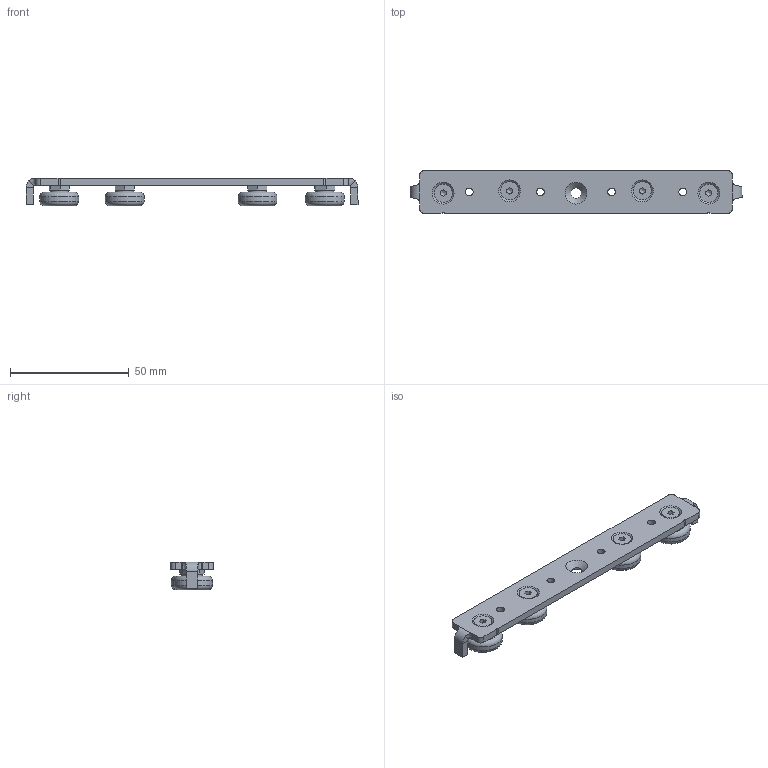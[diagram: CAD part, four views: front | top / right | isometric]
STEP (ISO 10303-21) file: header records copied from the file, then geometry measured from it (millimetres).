
FILE_DESCRIPTION (( 'STEP AP214' ), '1' );
FILE_NAME ('RLS22-4.STEP', '2022-02-01T12:41:23', ( '' ), ( '' ), 'SwSTEP 2.0', 'SolidWorks 2019', '' );
FILE_SCHEMA (( 'AUTOMOTIVE_DESIGN' ));
Length unit declared in the file: millimetre
Products named in the file (5): DIN 7991 - M4 x 8 neu_DIN 7991 - M4 x 8 --- 8C; 40945; 29287_01; RLS22-4; 42735
Assembly tree (9 placements, depth 2):
  RLS22-4
    29287_01
    40945  x2
    42735  x2
    DIN 7991 - M4 x 8 neu_DIN 7991 - M4 x 8 --- 8C  x4
Bounding box: 140 x 18 x 11.65 mm (x, y, z)
Volume: 12237.3 mm3; surface area: 10028.1 mm2
Topology: 9 solids, 9 shells, 204 faces, 453 edges, 275 vertices
Faces by surface type: plane 120, cylinder 43, cone 25, torus 12, bspline 4
Full cylindrical faces by diameter (mm): 3.3 x8, 4 x4, 4.5 x5, 7.5 x4, 7.64 x4, 16.4 x4
Entity records: 3615 total; most frequent: CARTESIAN_POINT 762, DIRECTION 522, ORIENTED_EDGE 438, EDGE_CURVE 219, AXIS2_PLACEMENT_3D 201, EDGE_LOOP 170, VERTEX_POINT 155, FACE_OUTER_BOUND 132
